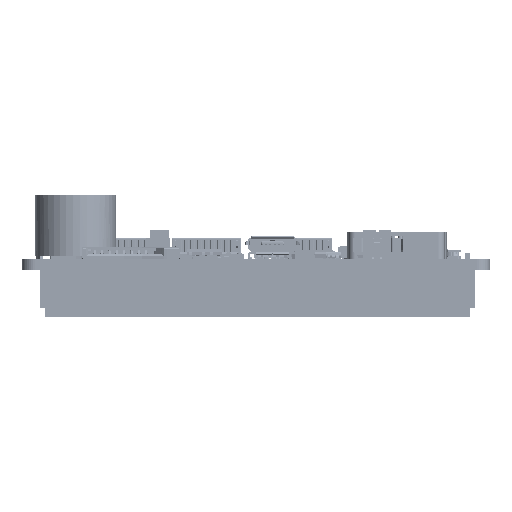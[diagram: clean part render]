
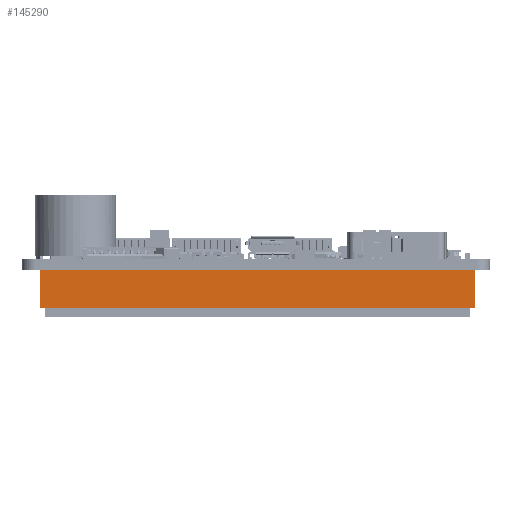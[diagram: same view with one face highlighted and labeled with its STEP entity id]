
A CAD part, left-side view. The second image highlights one B-rep face of the part: STEP entity #145290.
In plain terms, the highlighted planar face has unit normal (-1, 0, 0) as drawn and (0, 0, -1) by its records, which use the part's own axes.
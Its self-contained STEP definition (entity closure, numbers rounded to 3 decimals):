
#13972=FACE_OUTER_BOUND('',#21939,.T.);
#21939=EDGE_LOOP('',(#125481,#125482,#125483,#125484));
#39051=LINE('',#284858,#54651);
#39055=LINE('',#284865,#54655);
#39056=LINE('',#284868,#54656);
#39057=LINE('',#284869,#54657);
#54651=VECTOR('',#190914,10.);
#54655=VECTOR('',#190920,10.);
#54656=VECTOR('',#190923,10.);
#54657=VECTOR('',#190924,10.);
#67796=VERTEX_POINT('',#284855);
#67797=VERTEX_POINT('',#284857);
#67799=VERTEX_POINT('',#284863);
#67800=VERTEX_POINT('',#284867);
#87194=EDGE_CURVE('',#67796,#67797,#39051,.T.);
#87198=EDGE_CURVE('',#67799,#67796,#39055,.T.);
#87199=EDGE_CURVE('',#67800,#67799,#39056,.T.);
#87200=EDGE_CURVE('',#67800,#67797,#39057,.T.);
#125481=ORIENTED_EDGE('',*,*,#87198,.F.);
#125482=ORIENTED_EDGE('',*,*,#87199,.F.);
#125483=ORIENTED_EDGE('',*,*,#87200,.T.);
#125484=ORIENTED_EDGE('',*,*,#87194,.F.);
#133463=PLANE('',#157904);
#145290=ADVANCED_FACE('',(#13972),#133463,.T.);
#157904=AXIS2_PLACEMENT_3D('',#284866,#190921,#190922);
#190914=DIRECTION('',(1.,0.,0.));
#190920=DIRECTION('',(0.,-1.,0.));
#190921=DIRECTION('center_axis',(0.,0.,-1.));
#190922=DIRECTION('ref_axis',(-1.,0.,0.));
#190923=DIRECTION('',(-1.,0.,0.));
#190924=DIRECTION('',(0.,-1.,0.));
#284855=CARTESIAN_POINT('',(-65.1,-2.9,-78.2));
#284857=CARTESIAN_POINT('',(0.,-2.9,-78.2));
#284858=CARTESIAN_POINT('',(-65.1,-2.9,-78.2));
#284863=CARTESIAN_POINT('',(-65.1,2.9,-78.2));
#284865=CARTESIAN_POINT('',(-65.1,0.,-78.2));
#284866=CARTESIAN_POINT('Origin',(0.,0.,-78.2));
#284867=CARTESIAN_POINT('',(0.,2.9,-78.2));
#284868=CARTESIAN_POINT('',(-65.1,2.9,-78.2));
#284869=CARTESIAN_POINT('',(0.,0.,-78.2));
